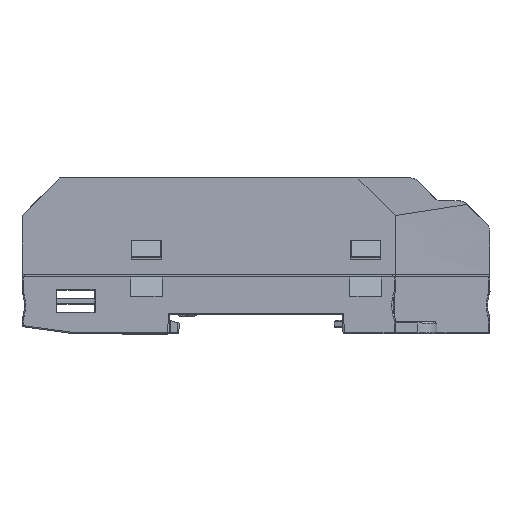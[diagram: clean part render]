
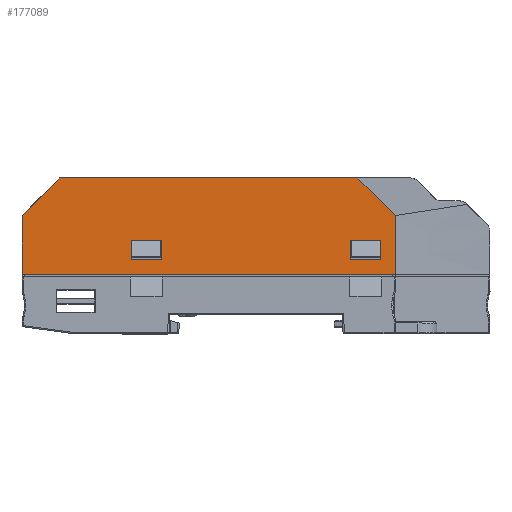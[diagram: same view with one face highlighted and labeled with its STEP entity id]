
A CAD part, left-side view. The second image highlights one B-rep face of the part: STEP entity #177089.
In plain terms, the highlighted planar face has unit normal (-1, 0, 0) as drawn and (0, 0, 1) by its records, which use the part's own axes.
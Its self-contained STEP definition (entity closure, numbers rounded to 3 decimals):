
#146974=DIRECTION('',(1.,0.,0.));
#146975=VECTOR('',#146974,61.2);
#146976=CARTESIAN_POINT('',(-40.3,20.3,50.));
#146977=LINE('',#146976,#146975);
#156773=DIRECTION('',(-1.,0.,0.));
#156774=VECTOR('',#156773,6.2);
#156775=CARTESIAN_POINT('',(-19.4,7.5,50.));
#156776=LINE('',#156775,#156774);
#156777=DIRECTION('',(0.,-1.,0.));
#156778=VECTOR('',#156777,4.);
#156779=CARTESIAN_POINT('',(-25.6,7.5,50.));
#156780=LINE('',#156779,#156778);
#156781=DIRECTION('',(1.,0.,0.));
#156782=VECTOR('',#156781,6.2);
#156783=CARTESIAN_POINT('',(-25.6,3.5,50.));
#156784=LINE('',#156783,#156782);
#156785=DIRECTION('',(0.,1.,0.));
#156786=VECTOR('',#156785,4.);
#156787=CARTESIAN_POINT('',(-19.4,3.5,50.));
#156788=LINE('',#156787,#156786);
#156789=DIRECTION('',(-1.,0.,0.));
#156790=VECTOR('',#156789,6.2);
#156791=CARTESIAN_POINT('',(25.6,7.5,50.));
#156792=LINE('',#156791,#156790);
#156793=DIRECTION('',(0.,-1.,0.));
#156794=VECTOR('',#156793,4.);
#156795=CARTESIAN_POINT('',(19.4,7.5,50.));
#156796=LINE('',#156795,#156794);
#156797=DIRECTION('',(1.,0.,0.));
#156798=VECTOR('',#156797,6.2);
#156799=CARTESIAN_POINT('',(19.4,3.5,50.));
#156800=LINE('',#156799,#156798);
#156801=DIRECTION('',(0.,1.,0.));
#156802=VECTOR('',#156801,4.);
#156803=CARTESIAN_POINT('',(25.6,3.5,50.));
#156804=LINE('',#156803,#156802);
#156805=DIRECTION('',(1.,0.,0.));
#156806=VECTOR('',#156805,76.6);
#156807=CARTESIAN_POINT('',(-48.,0.5,50.));
#156808=LINE('',#156807,#156806);
#156809=DIRECTION('',(0.,1.,0.));
#156810=VECTOR('',#156809,12.1);
#156811=CARTESIAN_POINT('',(-48.,0.5,50.));
#156812=LINE('',#156811,#156810);
#156813=DIRECTION('',(-0.707,-0.707,0.));
#156814=VECTOR('',#156813,10.889);
#156815=CARTESIAN_POINT('',(-40.3,20.3,50.));
#156816=LINE('',#156815,#156814);
#156817=DIRECTION('',(-0.707,0.707,0.));
#156818=VECTOR('',#156817,10.889);
#156819=CARTESIAN_POINT('',(28.6,12.6,50.));
#156820=LINE('',#156819,#156818);
#156821=DIRECTION('',(0.,1.,0.));
#156822=VECTOR('',#156821,12.1);
#156823=CARTESIAN_POINT('',(28.6,0.5,50.));
#156824=LINE('',#156823,#156822);
#158200=CARTESIAN_POINT('',(-40.3,20.3,50.));
#158201=CARTESIAN_POINT('',(-48.,12.6,50.));
#158202=VERTEX_POINT('',#158200);
#158203=VERTEX_POINT('',#158201);
#158204=CARTESIAN_POINT('',(20.9,20.3,50.));
#158205=VERTEX_POINT('',#158204);
#158206=CARTESIAN_POINT('',(28.6,12.6,50.));
#158207=VERTEX_POINT('',#158206);
#158456=CARTESIAN_POINT('',(-19.4,7.5,50.));
#158457=CARTESIAN_POINT('',(-25.6,7.5,50.));
#158458=VERTEX_POINT('',#158456);
#158459=VERTEX_POINT('',#158457);
#158460=CARTESIAN_POINT('',(-25.6,3.5,50.));
#158461=VERTEX_POINT('',#158460);
#158462=CARTESIAN_POINT('',(-19.4,3.5,50.));
#158463=VERTEX_POINT('',#158462);
#158464=CARTESIAN_POINT('',(25.6,7.5,50.));
#158465=CARTESIAN_POINT('',(19.4,7.5,50.));
#158466=VERTEX_POINT('',#158464);
#158467=VERTEX_POINT('',#158465);
#158468=CARTESIAN_POINT('',(19.4,3.5,50.));
#158469=VERTEX_POINT('',#158468);
#158470=CARTESIAN_POINT('',(25.6,3.5,50.));
#158471=VERTEX_POINT('',#158470);
#158518=CARTESIAN_POINT('',(-48.,0.5,50.));
#158519=CARTESIAN_POINT('',(28.6,0.5,50.));
#158520=VERTEX_POINT('',#158518);
#158521=VERTEX_POINT('',#158519);
#177053=CARTESIAN_POINT('',(-48.,0.,50.));
#177054=DIRECTION('',(0.,0.,1.));
#177055=DIRECTION('',(1.,0.,0.));
#177056=AXIS2_PLACEMENT_3D('',#177053,#177054,#177055);
#177057=PLANE('',#177056);
#177059=ORIENTED_EDGE('',*,*,#177058,.F.);
#177061=ORIENTED_EDGE('',*,*,#177060,.T.);
#177062=ORIENTED_EDGE('',*,*,#177033,.F.);
#177063=ORIENTED_EDGE('',*,*,#163191,.T.);
#177064=ORIENTED_EDGE('',*,*,#176382,.F.);
#177066=ORIENTED_EDGE('',*,*,#177065,.F.);
#177067=EDGE_LOOP('',(#177059,#177061,#177062,#177063,#177064,#177066));
#177068=FACE_OUTER_BOUND('',#177067,.F.);
#177070=ORIENTED_EDGE('',*,*,#177069,.T.);
#177072=ORIENTED_EDGE('',*,*,#177071,.T.);
#177074=ORIENTED_EDGE('',*,*,#177073,.T.);
#177076=ORIENTED_EDGE('',*,*,#177075,.T.);
#177077=EDGE_LOOP('',(#177070,#177072,#177074,#177076));
#177078=FACE_BOUND('',#177077,.F.);
#177080=ORIENTED_EDGE('',*,*,#177079,.T.);
#177082=ORIENTED_EDGE('',*,*,#177081,.T.);
#177084=ORIENTED_EDGE('',*,*,#177083,.T.);
#177086=ORIENTED_EDGE('',*,*,#177085,.T.);
#177087=EDGE_LOOP('',(#177080,#177082,#177084,#177086));
#177088=FACE_BOUND('',#177087,.F.);
#177089=ADVANCED_FACE('',(#177068,#177078,#177088),#177057,.T.);
#163191=EDGE_CURVE('',#158202,#158205,#146977,.T.);
#176382=EDGE_CURVE('',#158207,#158205,#156820,.T.);
#177033=EDGE_CURVE('',#158202,#158203,#156816,.T.);
#177058=EDGE_CURVE('',#158520,#158521,#156808,.T.);
#177060=EDGE_CURVE('',#158520,#158203,#156812,.T.);
#177065=EDGE_CURVE('',#158521,#158207,#156824,.T.);
#177069=EDGE_CURVE('',#158466,#158467,#156792,.T.);
#177071=EDGE_CURVE('',#158467,#158469,#156796,.T.);
#177073=EDGE_CURVE('',#158469,#158471,#156800,.T.);
#177075=EDGE_CURVE('',#158471,#158466,#156804,.T.);
#177079=EDGE_CURVE('',#158458,#158459,#156776,.T.);
#177081=EDGE_CURVE('',#158459,#158461,#156780,.T.);
#177083=EDGE_CURVE('',#158461,#158463,#156784,.T.);
#177085=EDGE_CURVE('',#158463,#158458,#156788,.T.);
